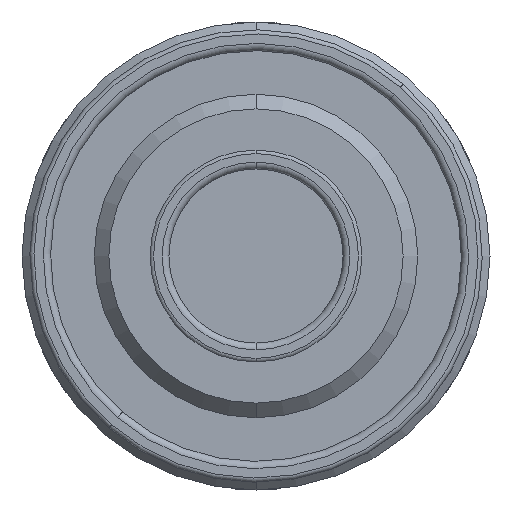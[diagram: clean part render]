
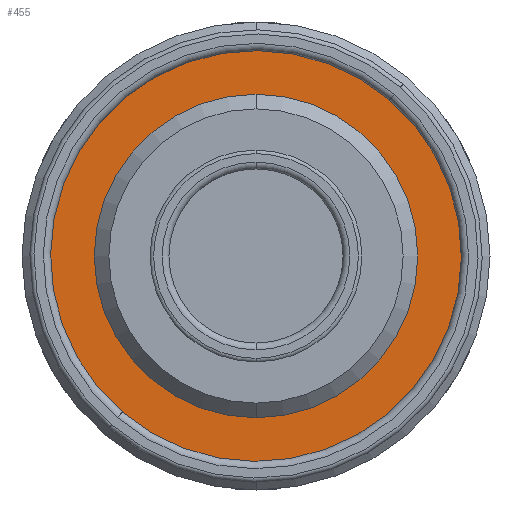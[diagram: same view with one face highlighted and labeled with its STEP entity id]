
A CAD part, front view. The second image highlights one B-rep face of the part: STEP entity #455.
In plain terms, the highlighted planar face has unit normal (0, -1, 0).
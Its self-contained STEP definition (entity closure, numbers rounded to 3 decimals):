
#188=PLANE('',#2547);
#228=FACE_BOUND('',#775,.T.);
#229=FACE_BOUND('',#776,.T.);
#455=ADVANCED_FACE('',(#228,#229),#188,.F.);
#775=EDGE_LOOP('',(#1476,#1477));
#776=EDGE_LOOP('',(#1478,#1479));
#1476=ORIENTED_EDGE('',*,*,#2049,.F.);
#1477=ORIENTED_EDGE('',*,*,#2032,.F.);
#1478=ORIENTED_EDGE('',*,*,#2028,.T.);
#1479=ORIENTED_EDGE('',*,*,#2050,.T.);
#1747=VERTEX_POINT('',#4108);
#1748=VERTEX_POINT('',#4110);
#1751=VERTEX_POINT('',#4117);
#1752=VERTEX_POINT('',#4119);
#2028=EDGE_CURVE('',#1748,#1747,#2231,.T.);
#2032=EDGE_CURVE('',#1751,#1752,#2234,.T.);
#2049=EDGE_CURVE('',#1752,#1751,#2248,.T.);
#2050=EDGE_CURVE('',#1747,#1748,#2249,.T.);
#2231=CIRCLE('',#2516,21.4);
#2234=CIRCLE('',#2520,15.55);
#2248=CIRCLE('',#2544,15.55);
#2249=CIRCLE('',#2546,21.4);
#2516=AXIS2_PLACEMENT_3D('',#4109,#3171,#3172);
#2520=AXIS2_PLACEMENT_3D('',#4118,#3180,#3181);
#2544=AXIS2_PLACEMENT_3D('',#4154,#3231,#3232);
#2546=AXIS2_PLACEMENT_3D('',#4156,#3235,#3236);
#2547=AXIS2_PLACEMENT_3D('',#4157,#3237,#3238);
#3171=DIRECTION('',(0.,-1.,0.));
#3172=DIRECTION('',(0.,0.,-1.));
#3180=DIRECTION('',(0.,-1.,0.));
#3181=DIRECTION('',(0.,0.,-1.));
#3231=DIRECTION('',(0.,-1.,0.));
#3232=DIRECTION('',(0.,0.,-1.));
#3235=DIRECTION('',(0.,-1.,0.));
#3236=DIRECTION('',(0.,0.,-1.));
#3237=DIRECTION('',(0.,1.,0.));
#3238=DIRECTION('',(0.,0.,1.));
#4108=CARTESIAN_POINT('',(0.,-1.2,21.4));
#4109=CARTESIAN_POINT('',(0.,-1.2,0.));
#4110=CARTESIAN_POINT('',(0.,-1.2,-21.4));
#4117=CARTESIAN_POINT('',(0.,-1.2,-15.55));
#4118=CARTESIAN_POINT('',(0.,-1.2,0.));
#4119=CARTESIAN_POINT('',(0.,-1.2,15.55));
#4154=CARTESIAN_POINT('',(0.,-1.2,0.));
#4156=CARTESIAN_POINT('',(0.,-1.2,0.));
#4157=CARTESIAN_POINT('',(0.,-1.2,0.));
